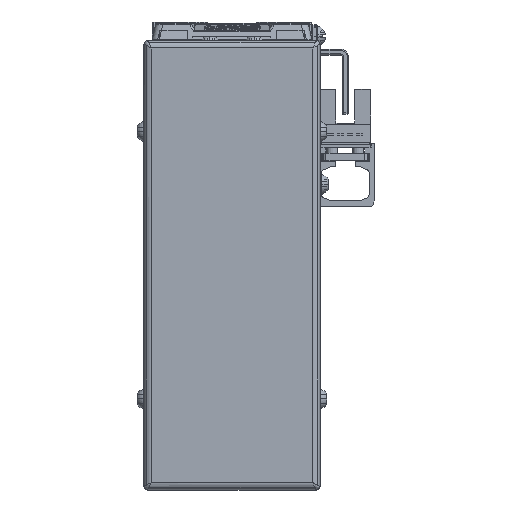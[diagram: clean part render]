
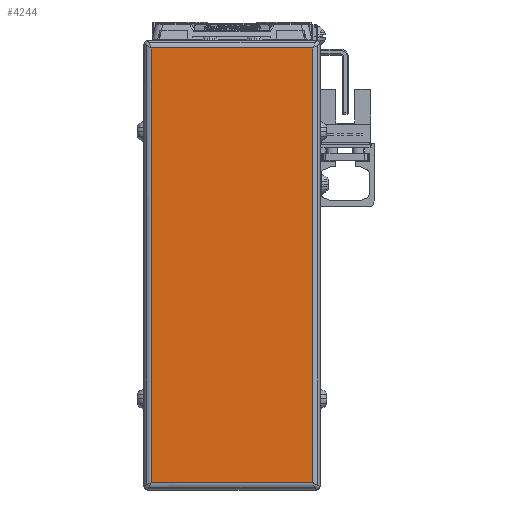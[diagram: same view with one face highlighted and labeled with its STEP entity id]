
A CAD part, left-side view. The second image highlights one B-rep face of the part: STEP entity #4244.
In plain terms, the highlighted planar face has unit normal (-1, 0, 0).
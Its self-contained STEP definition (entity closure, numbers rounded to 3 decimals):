
#4244=ADVANCED_FACE('',(#9909),#9910,.T.);
#9909=FACE_OUTER_BOUND('',#18398,.T.);
#9910=PLANE('',#18399);
#18398=EDGE_LOOP('',(#32052,#32053,#32054,#32055));
#18399=AXIS2_PLACEMENT_3D('',#32056,#32057,#32058);
#32052=ORIENTED_EDGE('',*,*,#50551,.F.);
#32053=ORIENTED_EDGE('',*,*,#50552,.F.);
#32054=ORIENTED_EDGE('',*,*,#50553,.F.);
#32055=ORIENTED_EDGE('',*,*,#50554,.F.);
#32056=CARTESIAN_POINT('',(-48.,0.,-42.5));
#32057=DIRECTION('',(-1.0,0.,0.));
#32058=DIRECTION('',(0.,0.,1.0));
#50551=EDGE_CURVE('',#61419,#61420,#61421,.T.);
#50552=EDGE_CURVE('',#61422,#61419,#61423,.T.);
#50553=EDGE_CURVE('',#61424,#61422,#61425,.T.);
#50554=EDGE_CURVE('',#61420,#61424,#61426,.T.);
#61419=VERTEX_POINT('',#76234);
#61420=VERTEX_POINT('',#76235);
#61421=LINE('',#76236,#76237);
#61422=VERTEX_POINT('',#76238);
#61423=LINE('',#76239,#76240);
#61424=VERTEX_POINT('',#76241);
#61425=LINE('',#76242,#76243);
#61426=LINE('',#76244,#76245);
#76234=CARTESIAN_POINT('',(-48.,21.7,16.));
#76235=CARTESIAN_POINT('',(-48.,-21.7,16.));
#76236=CARTESIAN_POINT('',(-48.,0.,16.));
#76237=VECTOR('',#89656,10.0);
#76238=CARTESIAN_POINT('',(-48.,21.7,-101.0));
#76239=CARTESIAN_POINT('',(-48.,21.7,-42.5));
#76240=VECTOR('',#89657,10.0);
#76241=CARTESIAN_POINT('',(-48.,-21.7,-101.0));
#76242=CARTESIAN_POINT('',(-48.,0.,-101.0));
#76243=VECTOR('',#89658,10.0);
#76244=CARTESIAN_POINT('',(-48.,-21.7,-42.5));
#76245=VECTOR('',#89659,10.0);
#89656=DIRECTION('',(0.,-1.0,0.));
#89657=DIRECTION('',(0.,0.,1.0));
#89658=DIRECTION('',(0.,1.0,0.));
#89659=DIRECTION('',(0.,0.,-1.0));
